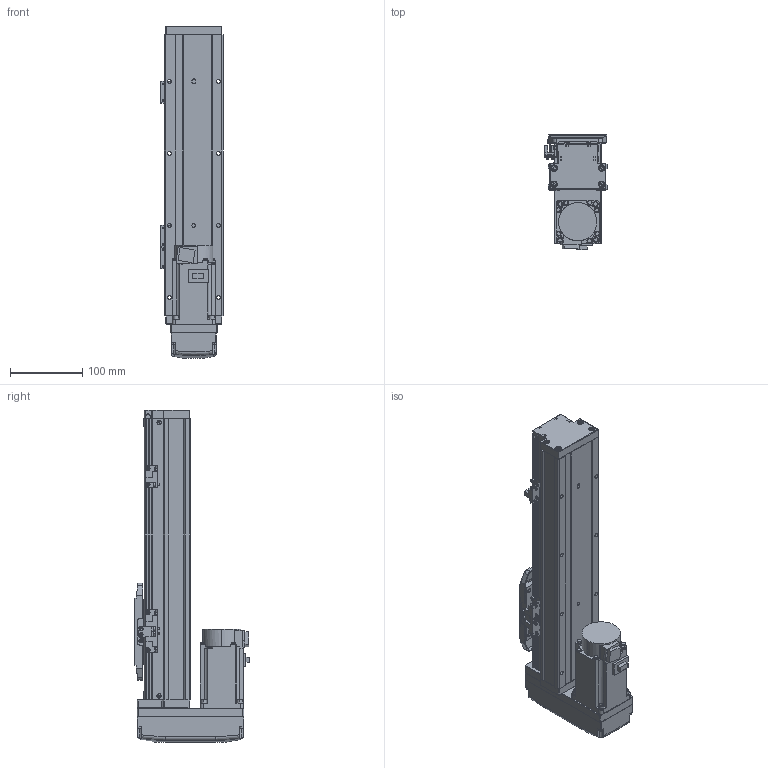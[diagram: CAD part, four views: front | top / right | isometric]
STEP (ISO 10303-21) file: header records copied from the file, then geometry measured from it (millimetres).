
FILE_DESCRIPTION (( 'STEP AP203' ), '1' );
FILE_NAME ('GTH8-200-BM-M20-C4.step', '2022-09-23T01:04:28', ( '微软用户' ), ( '微软中国' ), 'SwSTEP 2.0', 'SolidWorks 2020', '' );
FILE_SCHEMA (( 'CONFIG_CONTROL_DESIGN' ));
Length unit declared in the file: millimetre
Products named in the file (18): GBT 70.3-M3℅6; GBT96.1-2002 3×0.8; GTH80-022; BTH-M3X5X6; GTH80-001_200; GBT 70.1-M3℅6; hg-kn43j_-s100_; GTH80-003; GBT 70.1-M4×16; CTHA86-015-1_CTHA86-015-2; GTH80-004; GTH80-028; CTHA86-033_M40B; GTH80-006; GTH50-024; GTH8-200-BM-M20-C4; GTH80-013; GTH50-023
Assembly tree (57 placements, depth 2):
  GTH8-200-BM-M20-C4
    GTH80-001_200
    GTH80-003
    GTH80-004
    GTH80-006
    GTH80-013
    GBT 70.3-M3℅6  x4
    GTH80-022
    GBT 70.1-M3℅6  x14
    GBT 70.1-M4×16  x8
    GTH80-028  x2
    GTH50-024  x3
    GTH50-023  x3
    GBT96.1-2002 3×0.8  x6
    BTH-M3X5X6  x8
    hg-kn43j_-s100_
    CTHA86-015-1_CTHA86-015-2
    CTHA86-033_M40B
Bounding box: 86.9 x 160.3 x 461 mm (x, y, z)
Volume: 2681021.7 mm3; surface area: 329023.4 mm2
Topology: 59 solids, 59 shells, 2224 faces, 5127 edges, 3139 vertices
Faces by surface type: plane 1187, cylinder 595, cone 260, torus 166, bspline 8, sphere 8
Entity records: 40330 total; most frequent: CARTESIAN_POINT 7097, DIRECTION 6537, ORIENTED_EDGE 6072, EDGE_CURVE 3036, AXIS2_PLACEMENT_3D 2277, LINE 1983, VECTOR 1983, VERTEX_POINT 1914
